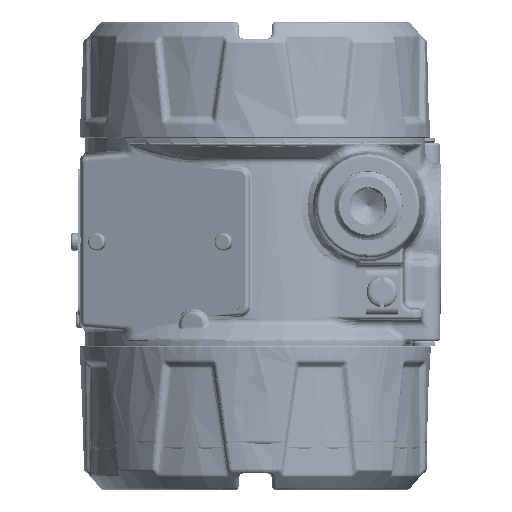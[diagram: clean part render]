
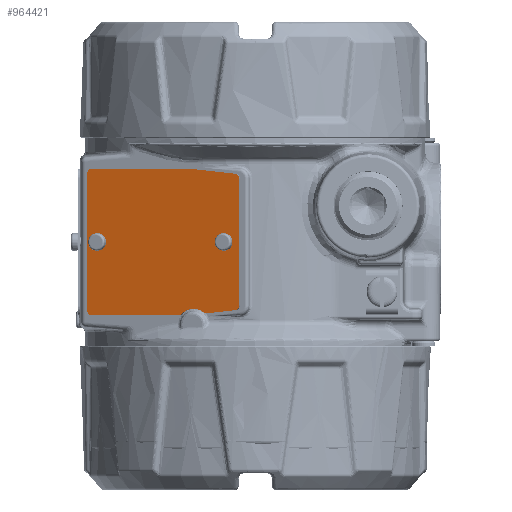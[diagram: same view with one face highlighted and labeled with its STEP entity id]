
A CAD part, left-side view. The second image highlights one B-rep face of the part: STEP entity #964421.
In plain terms, the highlighted planar face has unit normal (-0.94, 0.342, 0) as drawn and (0, 0, -1) by its records, which use the part's own axes.
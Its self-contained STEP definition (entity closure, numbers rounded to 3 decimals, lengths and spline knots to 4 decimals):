
#964046=CARTESIAN_POINT('',(0.8048,0.4236,0.));
#964047=DIRECTION('',(0.,0.,1.));
#964048=DIRECTION('',(0.995,-0.105,0.));
#964049=AXIS2_PLACEMENT_3D('',#964046,#964047,#964048);
#964051=CARTESIAN_POINT('',(1.03,0.59,0.));
#964052=DIRECTION('',(0.,0.,-1.));
#964053=DIRECTION('',(-0.804,-0.594,0.));
#964054=AXIS2_PLACEMENT_3D('',#964051,#964052,#964053);
#964056=CARTESIAN_POINT('',(1.03,0.59,0.));
#964057=DIRECTION('',(0.,0.,-1.));
#964058=DIRECTION('',(-1.,0.,0.));
#964059=AXIS2_PLACEMENT_3D('',#964056,#964057,#964058);
#964061=CARTESIAN_POINT('',(0.83,0.786,0.));
#964062=DIRECTION('',(0.,0.,1.));
#964063=DIRECTION('',(0.714,-0.7,0.));
#964064=AXIS2_PLACEMENT_3D('',#964061,#964062,#964063);
#964066=DIRECTION('',(0.,1.,0.));
#964067=VECTOR('',#964066,1.114);
#964068=CARTESIAN_POINT('',(0.89,0.786,0.));
#964069=LINE('',#964068,#964067);
#964070=CARTESIAN_POINT('',(0.83,1.9,0.));
#964071=DIRECTION('',(0.,0.,1.));
#964072=DIRECTION('',(1.,0.,0.));
#964073=AXIS2_PLACEMENT_3D('',#964070,#964071,#964072);
#964075=DIRECTION('',(-1.,0.,0.));
#964076=VECTOR('',#964075,1.66);
#964077=CARTESIAN_POINT('',(0.83,1.96,0.));
#964078=LINE('',#964077,#964076);
#964079=CARTESIAN_POINT('',(-0.83,1.9,0.));
#964080=DIRECTION('',(0.,0.,1.));
#964081=DIRECTION('',(0.,1.,0.));
#964082=AXIS2_PLACEMENT_3D('',#964079,#964080,#964081);
#964084=DIRECTION('',(0.,-1.,0.));
#964085=VECTOR('',#964084,1.2269);
#964086=CARTESIAN_POINT('',(-0.89,1.9,0.));
#964087=LINE('',#964086,#964085);
#964088=CARTESIAN_POINT('',(-0.64,0.6731,0.));
#964089=DIRECTION('',(0.,0.,1.));
#964090=DIRECTION('',(-1.,0.,0.));
#964091=AXIS2_PLACEMENT_3D('',#964088,#964089,#964090);
#964093=DIRECTION('',(0.105,-0.995,0.));
#964094=VECTOR('',#964093,0.5965);
#964095=CARTESIAN_POINT('',(-0.8886,0.647,0.));
#964096=LINE('',#964095,#964094);
#964097=CARTESIAN_POINT('',(-0.7666,0.06,0.));
#964098=DIRECTION('',(0.,0.,1.));
#964099=DIRECTION('',(-0.995,-0.105,0.));
#964100=AXIS2_PLACEMENT_3D('',#964097,#964098,#964099);
#964102=DIRECTION('',(1.,0.,0.));
#964103=VECTOR('',#964102,1.5332);
#964104=CARTESIAN_POINT('',(-0.7666,0.,0.));
#964105=LINE('',#964104,#964103);
#964106=CARTESIAN_POINT('',(0.7666,0.06,0.));
#964107=DIRECTION('',(0.,0.,1.));
#964108=DIRECTION('',(0.,-1.,0.));
#964109=AXIS2_PLACEMENT_3D('',#964106,#964107,#964108);
#964111=DIRECTION('',(0.105,0.995,0.));
#964112=VECTOR('',#964111,0.3656);
#964113=CARTESIAN_POINT('',(0.8263,0.0537,0.));
#964114=LINE('',#964113,#964112);
#964115=CARTESIAN_POINT('',(0.,0.19,0.));
#964116=DIRECTION('',(0.,0.,-1.));
#964117=DIRECTION('',(1.,0.,0.));
#964118=AXIS2_PLACEMENT_3D('',#964115,#964116,#964117);
#964120=CARTESIAN_POINT('',(0.,0.19,0.));
#964121=DIRECTION('',(0.,0.,-1.));
#964122=DIRECTION('',(-1.,0.,0.));
#964123=AXIS2_PLACEMENT_3D('',#964120,#964121,#964122);
#964125=CARTESIAN_POINT('',(0.,1.82,0.));
#964126=DIRECTION('',(0.,0.,-1.));
#964127=DIRECTION('',(1.,0.,0.));
#964128=AXIS2_PLACEMENT_3D('',#964125,#964126,#964127);
#964130=CARTESIAN_POINT('',(0.,1.82,0.));
#964131=DIRECTION('',(0.,0.,-1.));
#964132=DIRECTION('',(-1.,0.,0.));
#964133=AXIS2_PLACEMENT_3D('',#964130,#964131,#964132);
#964296=CARTESIAN_POINT('',(0.8645,0.4173,0.));
#964297=CARTESIAN_POINT('',(0.8531,0.4592,0.));
#964298=VERTEX_POINT('',#964296);
#964299=VERTEX_POINT('',#964297);
#964300=CARTESIAN_POINT('',(0.81,0.59,0.));
#964301=VERTEX_POINT('',#964300);
#964302=CARTESIAN_POINT('',(0.8729,0.744,0.));
#964303=VERTEX_POINT('',#964302);
#964304=CARTESIAN_POINT('',(0.89,0.786,0.));
#964305=VERTEX_POINT('',#964304);
#964306=CARTESIAN_POINT('',(0.89,1.9,0.));
#964307=VERTEX_POINT('',#964306);
#964308=CARTESIAN_POINT('',(0.83,1.96,0.));
#964309=VERTEX_POINT('',#964308);
#964310=CARTESIAN_POINT('',(-0.83,1.96,0.));
#964311=VERTEX_POINT('',#964310);
#964312=CARTESIAN_POINT('',(-0.89,1.9,0.));
#964313=VERTEX_POINT('',#964312);
#964314=CARTESIAN_POINT('',(-0.89,0.6731,0.));
#964315=VERTEX_POINT('',#964314);
#964316=CARTESIAN_POINT('',(-0.8886,0.647,0.));
#964317=VERTEX_POINT('',#964316);
#964318=CARTESIAN_POINT('',(-0.8263,0.0537,0.));
#964319=VERTEX_POINT('',#964318);
#964320=CARTESIAN_POINT('',(-0.7666,0.,0.));
#964321=VERTEX_POINT('',#964320);
#964322=CARTESIAN_POINT('',(0.7666,0.,0.));
#964323=VERTEX_POINT('',#964322);
#964324=CARTESIAN_POINT('',(0.8263,0.0537,0.));
#964325=VERTEX_POINT('',#964324);
#964326=CARTESIAN_POINT('',(0.07,0.19,0.));
#964327=CARTESIAN_POINT('',(-0.07,0.19,0.));
#964328=VERTEX_POINT('',#964326);
#964329=VERTEX_POINT('',#964327);
#964330=CARTESIAN_POINT('',(0.07,1.82,0.));
#964331=CARTESIAN_POINT('',(-0.07,1.82,0.));
#964332=VERTEX_POINT('',#964330);
#964333=VERTEX_POINT('',#964331);
#964372=CARTESIAN_POINT('',(0.,0.,0.));
#964373=DIRECTION('',(0.,0.,1.));
#964374=DIRECTION('',(1.,0.,0.));
#964375=AXIS2_PLACEMENT_3D('',#964372,#964373,#964374);
#964376=PLANE('',#964375);
#964378=ORIENTED_EDGE('',*,*,#964377,.T.);
#964380=ORIENTED_EDGE('',*,*,#964379,.T.);
#964382=ORIENTED_EDGE('',*,*,#964381,.T.);
#964384=ORIENTED_EDGE('',*,*,#964383,.T.);
#964386=ORIENTED_EDGE('',*,*,#964385,.T.);
#964388=ORIENTED_EDGE('',*,*,#964387,.T.);
#964390=ORIENTED_EDGE('',*,*,#964389,.T.);
#964392=ORIENTED_EDGE('',*,*,#964391,.T.);
#964394=ORIENTED_EDGE('',*,*,#964393,.T.);
#964396=ORIENTED_EDGE('',*,*,#964395,.T.);
#964398=ORIENTED_EDGE('',*,*,#964397,.T.);
#964400=ORIENTED_EDGE('',*,*,#964399,.T.);
#964402=ORIENTED_EDGE('',*,*,#964401,.T.);
#964404=ORIENTED_EDGE('',*,*,#964403,.T.);
#964406=ORIENTED_EDGE('',*,*,#964405,.T.);
#964407=EDGE_LOOP('',(#964378,#964380,#964382,#964384,#964386,#964388,#964390,
#964392,#964394,#964396,#964398,#964400,#964402,#964404,#964406));
#964408=FACE_OUTER_BOUND('',#964407,.F.);
#964410=ORIENTED_EDGE('',*,*,#964409,.T.);
#964412=ORIENTED_EDGE('',*,*,#964411,.T.);
#964413=EDGE_LOOP('',(#964410,#964412));
#964414=FACE_BOUND('',#964413,.F.);
#964416=ORIENTED_EDGE('',*,*,#964415,.T.);
#964418=ORIENTED_EDGE('',*,*,#964417,.T.);
#964419=EDGE_LOOP('',(#964416,#964418));
#964420=FACE_BOUND('',#964419,.F.);
#964421=ADVANCED_FACE('',(#964408,#964414,#964420),#964376,.F.);
#964050=CIRCLE('',#964049,0.06);
#964055=CIRCLE('',#964054,0.22);
#964060=CIRCLE('',#964059,0.22);
#964065=CIRCLE('',#964064,0.06);
#964074=CIRCLE('',#964073,0.06);
#964083=CIRCLE('',#964082,0.06);
#964092=CIRCLE('',#964091,0.25);
#964101=CIRCLE('',#964100,0.06);
#964110=CIRCLE('',#964109,0.06);
#964119=CIRCLE('',#964118,0.07);
#964124=CIRCLE('',#964123,0.07);
#964129=CIRCLE('',#964128,0.07);
#964134=CIRCLE('',#964133,0.07);
#964377=EDGE_CURVE('',#964298,#964299,#964050,.T.);
#964379=EDGE_CURVE('',#964299,#964301,#964055,.T.);
#964381=EDGE_CURVE('',#964301,#964303,#964060,.T.);
#964383=EDGE_CURVE('',#964303,#964305,#964065,.T.);
#964385=EDGE_CURVE('',#964305,#964307,#964069,.T.);
#964387=EDGE_CURVE('',#964307,#964309,#964074,.T.);
#964389=EDGE_CURVE('',#964309,#964311,#964078,.T.);
#964391=EDGE_CURVE('',#964311,#964313,#964083,.T.);
#964393=EDGE_CURVE('',#964313,#964315,#964087,.T.);
#964395=EDGE_CURVE('',#964315,#964317,#964092,.T.);
#964397=EDGE_CURVE('',#964317,#964319,#964096,.T.);
#964399=EDGE_CURVE('',#964319,#964321,#964101,.T.);
#964401=EDGE_CURVE('',#964321,#964323,#964105,.T.);
#964403=EDGE_CURVE('',#964323,#964325,#964110,.T.);
#964405=EDGE_CURVE('',#964325,#964298,#964114,.T.);
#964409=EDGE_CURVE('',#964328,#964329,#964119,.T.);
#964411=EDGE_CURVE('',#964329,#964328,#964124,.T.);
#964415=EDGE_CURVE('',#964332,#964333,#964129,.T.);
#964417=EDGE_CURVE('',#964333,#964332,#964134,.T.);
